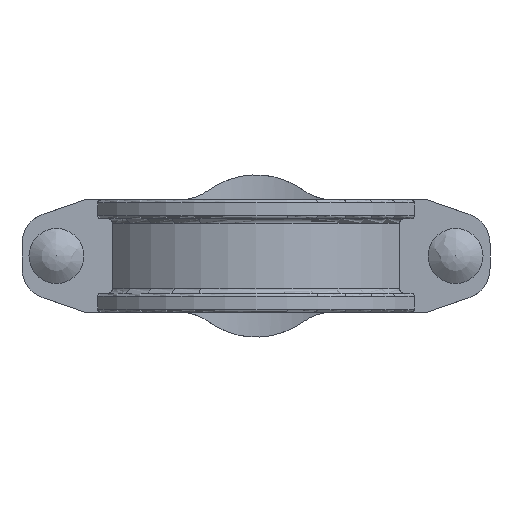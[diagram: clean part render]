
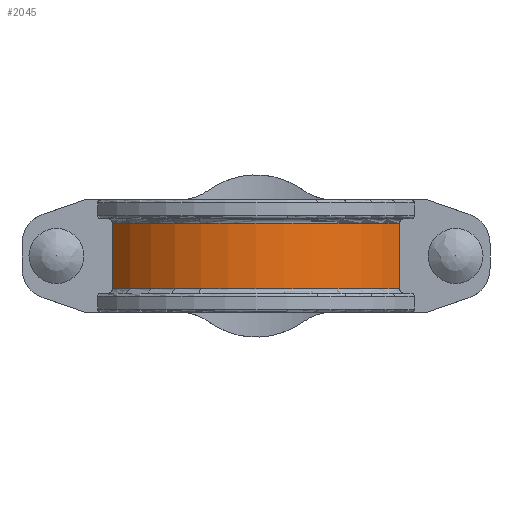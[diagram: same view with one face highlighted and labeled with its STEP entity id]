
A CAD part, front view. The second image highlights one B-rep face of the part: STEP entity #2045.
In plain terms, the highlighted cylindrical face has radius 88.976 mm (diameter 177.952 mm), a partial arc.
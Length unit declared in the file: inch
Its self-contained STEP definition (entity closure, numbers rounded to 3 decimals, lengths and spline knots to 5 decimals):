
#140=CYLINDRICAL_SURFACE('',#2244,3.503);
#237=CIRCLE('',#2243,3.503);
#238=CIRCLE('',#2245,3.503);
#325=FACE_OUTER_BOUND('',#435,.T.);
#435=EDGE_LOOP('',(#1651,#1652,#1653,#1654));
#589=LINE('',#4028,#739);
#590=LINE('',#4031,#740);
#739=VECTOR('',#2734,0.3937);
#740=VECTOR('',#2737,0.3937);
#931=VERTEX_POINT('',#4003);
#932=VERTEX_POINT('',#4014);
#933=VERTEX_POINT('',#4027);
#934=VERTEX_POINT('',#4029);
#1198=EDGE_CURVE('',#931,#932,#237,.T.);
#1200=EDGE_CURVE('',#933,#931,#589,.T.);
#1201=EDGE_CURVE('',#933,#934,#238,.T.);
#1202=EDGE_CURVE('',#932,#934,#590,.T.);
#1651=ORIENTED_EDGE('',*,*,#1200,.F.);
#1652=ORIENTED_EDGE('',*,*,#1201,.T.);
#1653=ORIENTED_EDGE('',*,*,#1202,.F.);
#1654=ORIENTED_EDGE('',*,*,#1198,.F.);
#2045=ADVANCED_FACE('',(#325),#140,.T.);
#2243=AXIS2_PLACEMENT_3D('',#4015,#2730,#2731);
#2244=AXIS2_PLACEMENT_3D('',#4026,#2732,#2733);
#2245=AXIS2_PLACEMENT_3D('',#4030,#2735,#2736);
#2730=DIRECTION('center_axis',(0.,0.,1.));
#2731=DIRECTION('ref_axis',(-1.,0.,0.));
#2732=DIRECTION('center_axis',(0.,0.,1.));
#2733=DIRECTION('ref_axis',(-1.,0.,0.));
#2734=DIRECTION('',(0.,0.,1.));
#2735=DIRECTION('center_axis',(0.,0.,1.));
#2736=DIRECTION('ref_axis',(-1.,0.,0.));
#2737=DIRECTION('',(0.,0.,-1.));
#4003=CARTESIAN_POINT('',(-2.87594,-2.,0.655));
#4014=CARTESIAN_POINT('',(2.87594,-2.,0.655));
#4015=CARTESIAN_POINT('Origin',(0.,0.,
0.655));
#4026=CARTESIAN_POINT('Origin',(0.,0.,0.));
#4027=CARTESIAN_POINT('',(-2.87594,-2.,-0.655));
#4028=CARTESIAN_POINT('',(-2.87594,-2.,0.));
#4029=CARTESIAN_POINT('',(2.87594,-2.,-0.655));
#4030=CARTESIAN_POINT('Origin',(0.,0.,
-0.655));
#4031=CARTESIAN_POINT('',(2.87594,-2.,0.));
